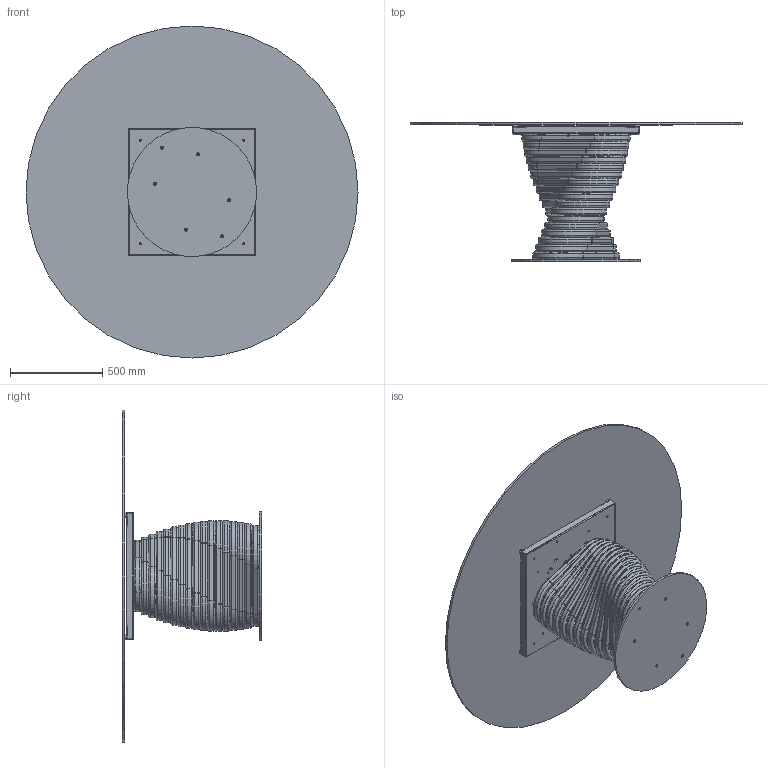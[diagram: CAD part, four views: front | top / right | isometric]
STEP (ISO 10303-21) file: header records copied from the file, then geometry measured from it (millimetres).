
FILE_DESCRIPTION (( 'STEP AP203' ), '1' );
FILE_NAME ('RO13G.STEP', '2024-08-07T13:07:50', ( '' ), ( '' ), 'SwSTEP 2.0', 'SolidWorks 2022', '' );
FILE_SCHEMA (( 'CONFIG_CONTROL_DESIGN' ));
Length unit declared in the file: millimetre
Products named in the file (15): ROBX00000-00-ROTOLO BASE 17 ANELLI; COLLO TELAIO UNIVERSALE TTAV0801 CON FERRAMENTA_MTG TOP CRISTALLO VERNICIATO-CERAMICA; rondella M8_8X24; 434070-00-PIEDINO TPV GOMMA NERO D. 30x8max18_filo estetico; ROBX00000SUP-00-Anello rotolo SUPERIORE_Default<A macchina>; TTAV0801-02-TELAIO UNIVERSALE TONDO-VASSOIO; M8xXXmm_M8x20mm; TTAV0801 TELAIO UNIVERSALE TONDO-PIASTRINA; RO13G; M8xXXmm_hex_M8X20mm; TTAV0801-02-TELAIO UNIVERSALE TONDO; ROBX00000INF-00-Anello rotolo INFERIORE_Default<A macchina>; ROBX00000MED-00-Anello rotolo MEDIO_Default<A macchina>; C1XCRMXX-00-piani Rotondi Cristallo_C13 D.180cm; ROB200000-00-PIASTRA BASE_Ø70cm
Assembly tree (45 placements, depth 4):
  RO13G
    ROB200000-00-PIASTRA BASE_Ø70cm
    ROBX00000-00-ROTOLO BASE 17 ANELLI
      ROBX00000INF-00-Anello rotolo INFERIORE_Default<A macchina>
      ROBX00000MED-00-Anello rotolo MEDIO_Default<A macchina>  x15
      ROBX00000SUP-00-Anello rotolo SUPERIORE_Default<A macchina>
    M8xXXmm_hex_M8X20mm  x6
    COLLO TELAIO UNIVERSALE TTAV0801 CON FERRAMENTA_MTG TOP CRISTALLO VERNICIATO-CERAMICA
      TTAV0801-02-TELAIO UNIVERSALE TONDO
        TTAV0801-02-TELAIO UNIVERSALE TONDO-VASSOIO
        TTAV0801 TELAIO UNIVERSALE TONDO-PIASTRINA  x4
      434070-00-PIEDINO TPV GOMMA NERO D. 30x8max18_filo estetico  x4
    rondella M8_8X24  x4
    M8xXXmm_M8x20mm  x4
    C1XCRMXX-00-piani Rotondi Cristallo_C13 D.180cm
Bounding box: 1800 x 754 x 1800 mm (x, y, z)
Volume: 42363243.3 mm3; surface area: 12042488.8 mm2
Topology: 97 solids, 97 shells, 1632 faces, 4000 edges, 2542 vertices
Faces by surface type: plane 694, cylinder 626, torus 212, cone 100
Entity records: 22537 total; most frequent: CARTESIAN_POINT 5008, DIRECTION 3284, ORIENTED_EDGE 3070, EDGE_CURVE 1535, AXIS2_PLACEMENT_3D 1209, VERTEX_POINT 989, LINE 866, VECTOR 866
